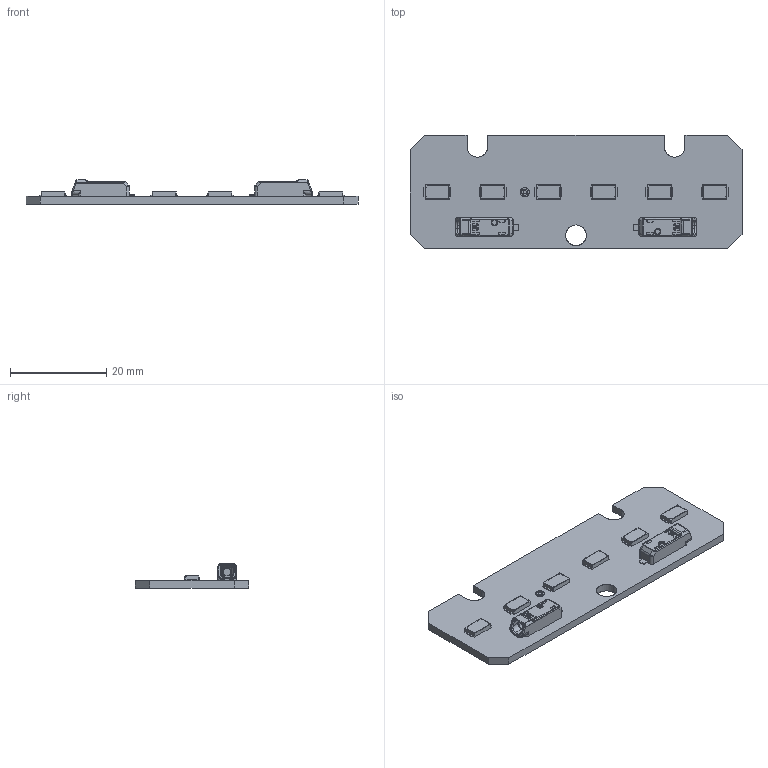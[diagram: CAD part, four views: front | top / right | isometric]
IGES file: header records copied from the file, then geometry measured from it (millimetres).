
Start section: SolidWorks IGES file using analytic representation for surfaces
Global section: file name: C:\Users\bernhard.fink\Desktop\16207822_lle-g4-70-325lm-adv.IGS; native system: SolidWorks 2014; preprocessor: SolidWorks 2014; author: bernhard.fink; date: 170914.105557; units: millimetre
Bounding box: 69 x 23.6 x 5.1 mm (x, y, z)
Surface area: 4169.7 mm2 (no closed solid volume)
Topology: 0 solids, 0 shells, 747 faces, 5132 edges, 5124 vertices
Faces by surface type: bspline 503, revolution 244
